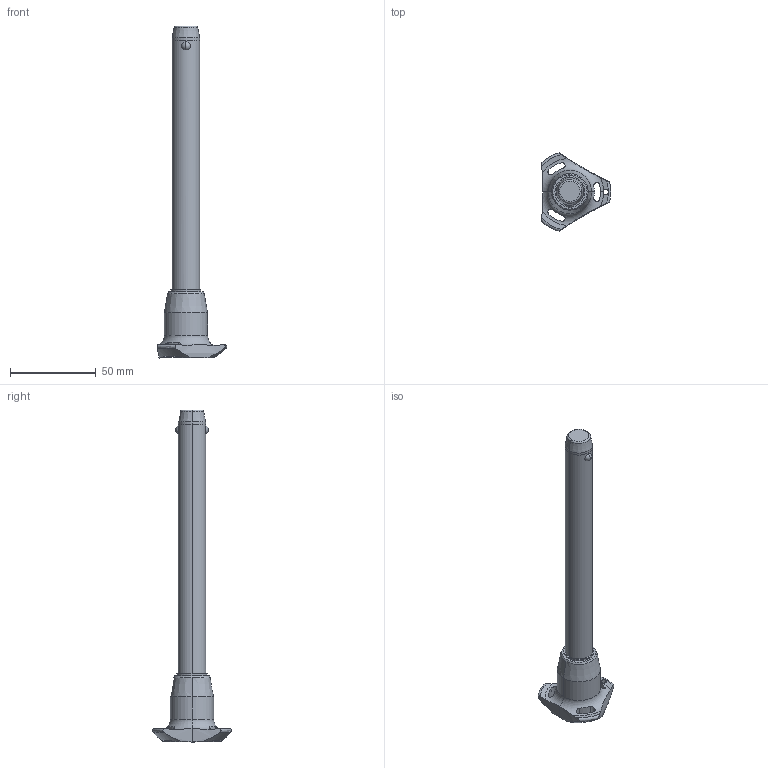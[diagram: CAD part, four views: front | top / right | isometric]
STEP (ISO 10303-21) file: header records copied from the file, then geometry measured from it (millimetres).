
FILE_DESCRIPTION (( 'STEP AP203' ), '1' );
FILE_NAME ('QR1726.M16-140-T.step', '2025-11-13T11:22:39', ( '' ), ( '' ), 'SwSTEP 2.0', 'SolidWorks 2019', '' );
FILE_SCHEMA (( 'CONFIG_CONTROL_DESIGN' ));
Length unit declared in the file: millimetre
Products named in the file (1): QR1726.M16-140-T
Bounding box: 40.5 x 45.88 x 193.7 mm (x, y, z)
Volume: 51878.2 mm3; surface area: 13630.1 mm2
Topology: 1 solids, 1 shells, 68 faces, 183 edges, 116 vertices
Faces by surface type: cylinder 32, cone 14, torus 11, sphere 6, plane 5
Entity records: 2923 total; most frequent: CARTESIAN_POINT 1170, ORIENTED_EDGE 366, DIRECTION 346, EDGE_CURVE 183, AXIS2_PLACEMENT_3D 154, VERTEX_POINT 116, CIRCLE 85, EDGE_LOOP 75
